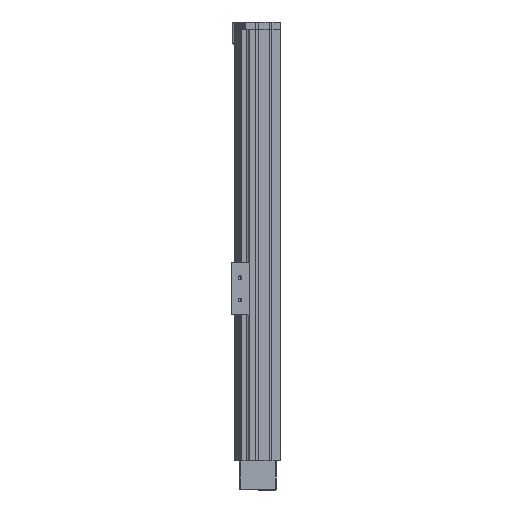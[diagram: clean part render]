
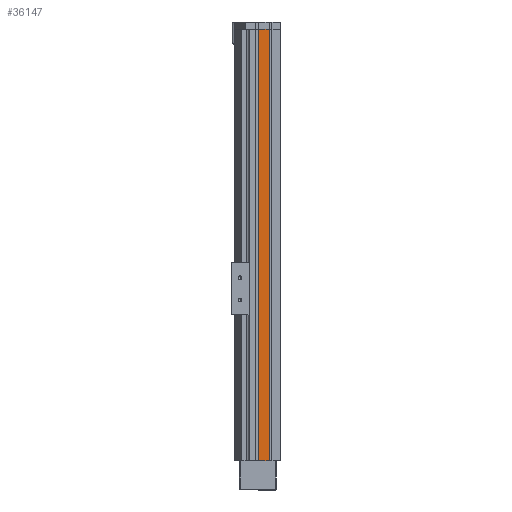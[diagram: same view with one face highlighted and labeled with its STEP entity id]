
A CAD part, left-side view. The second image highlights one B-rep face of the part: STEP entity #36147.
In plain terms, the highlighted planar face has unit normal (-1, 0, 0).
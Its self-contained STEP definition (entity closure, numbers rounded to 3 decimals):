
#24599 = VERTEX_POINT ( 'NONE', #32602 ) ;
#24711 = VERTEX_POINT ( 'NONE', #32606 ) ;
#32602 = CARTESIAN_POINT ( 'NONE',  ( -50., 30., 580. ) ) ;
#32606 = CARTESIAN_POINT ( 'NONE',  ( -50., 30., 0. ) ) ;
#34308 = VECTOR ( 'NONE', #34313, 1000. ) ;
#34313 = DIRECTION ( 'NONE',  ( 0., -1., 0. ) ) ;
#34832 = CARTESIAN_POINT ( 'NONE',  ( -50., 30., 580. ) ) ;
#34833 = LINE ( 'NONE', #34832, #34308 ) ;
#34966 = DIRECTION ( 'NONE',  ( 0., 0., -1. ) ) ;
#34967 = VECTOR ( 'NONE', #34966, 1000. ) ;
#34969 = CARTESIAN_POINT ( 'NONE',  ( -50., 30., 1400. ) ) ;
#34970 = LINE ( 'NONE', #34969, #34967 ) ;
#34971 = VECTOR ( 'NONE', #35048, 1000. ) ;
#34986 = CARTESIAN_POINT ( 'NONE',  ( -50., 15.5, 1400. ) ) ;
#34987 = CARTESIAN_POINT ( 'NONE',  ( -50., 15.5, 0. ) ) ;
#34988 = LINE ( 'NONE', #34986, #34971 ) ;
#34992 = CARTESIAN_POINT ( 'NONE',  ( -50., 15.5, 580. ) ) ;
#35048 = DIRECTION ( 'NONE',  ( 0., 0., -1. ) ) ;
#35083 = DIRECTION ( 'NONE',  ( 0., -1., 0. ) ) ;
#35084 = VECTOR ( 'NONE', #35083, 1000. ) ;
#35087 = CARTESIAN_POINT ( 'NONE',  ( -50., 15.5, 0. ) ) ;
#35090 = LINE ( 'NONE', #35087, #35084 ) ;
#35096 = FACE_OUTER_BOUND ( 'NONE', #36042, .T. ) ;
#35152 = DIRECTION ( 'NONE',  ( 0., 0., -1. ) ) ;
#35153 = DIRECTION ( 'NONE',  ( 1., 0., 0. ) ) ;
#35154 = CARTESIAN_POINT ( 'NONE',  ( -50., 15.5, 1400. ) ) ;
#35155 = AXIS2_PLACEMENT_3D ( 'NONE', #35154, #35153, #35152 ) ;
#35156 = PLANE ( 'NONE',  #35155 ) ;
#36042 = EDGE_LOOP ( 'NONE', ( #36149, #36144, #36076, #36145 ) ) ;
#36049 = EDGE_CURVE ( 'NONE', #24599, #24711, #34970, .T. ) ;
#36076 = ORIENTED_EDGE ( 'NONE', *, *, #36049, .T. ) ;
#36100 = VERTEX_POINT ( 'NONE', #34992 ) ;
#36101 = EDGE_CURVE ( 'NONE', #36100, #36105, #34988, .T. ) ;
#36105 = VERTEX_POINT ( 'NONE', #34987 ) ;
#36143 = EDGE_CURVE ( 'NONE', #24711, #36105, #35090, .T. ) ;
#36144 = ORIENTED_EDGE ( 'NONE', *, *, #36146, .F. ) ;
#36145 = ORIENTED_EDGE ( 'NONE', *, *, #36143, .T. ) ;
#36146 = EDGE_CURVE ( 'NONE', #24599, #36100, #34833, .T. ) ;
#36147 = ADVANCED_FACE ( 'NONE', ( #35096 ), #35156, .F. ) ;
#36149 = ORIENTED_EDGE ( 'NONE', *, *, #36101, .F. ) ;
